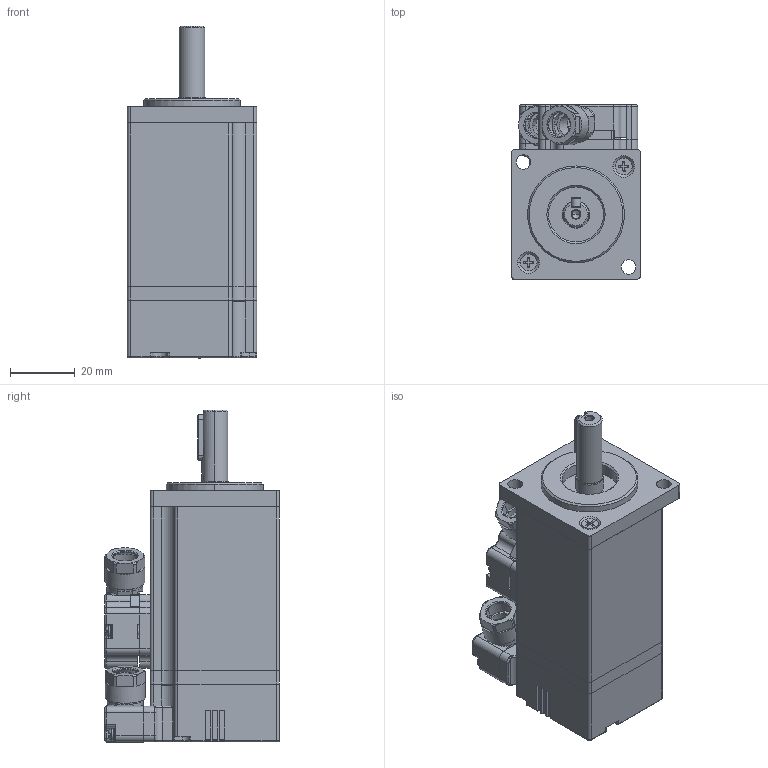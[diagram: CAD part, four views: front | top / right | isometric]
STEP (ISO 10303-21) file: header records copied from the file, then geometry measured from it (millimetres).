
FILE_DESCRIPTION((''),'2;1');
FILE_NAME('MS1H1-10B30CB-A330Z-S_ASM','2019-04-28T14:22:59',('w14852'),(''),'CREO PARAMETRIC BY PTC INC, 2017260','CREO PARAMETRIC BY PTC INC, 2017260','');
FILE_SCHEMA(('CONFIG_CONTROL_DESIGN'));
Length unit declared in the file: inch
Products named in the file (30): _1-SO-25700001_1_1_1; _1-SO-31110001_1_1_1; 31090501--MS1H1-100001_1_1_1; _1-SOLI00_1_1_1_1; _1-SO-128090001_1_1_1; 31090644--1-SOL000_1_1_1_1; _1-SO-288070001_1_1_1; _1-SO-323500001_1_1_1; _1-SO-357290001_1_1_1; _1-SO-362660001_1_1_1; _1-SO-391180001_1_1_1; _1-SO-523890001_1_1_1; _1-SO-528950001_1_1_1; _1-SO-556770001_1_1_1; _1-SO-621120001_1_1_1; PLAIN_PARALLEL_KEYS-1-SOLID1__1; 31090646--1-SOL000_1_1_1_1; 30_1_1_1_2_1; 60_1_1_1_1; _1-SO-821970001_1_1_1; _1-SO-890960001_1_1_1; MS1H1-10B30CB-A330Z_1_ASM_1_ASM_ASM; MS1H1-10B30CB-A330Z_ASM_1-32540_ASM; 1716920106_4_1_2_3_ASM_1_ASM; MS1H1-10B30CB-A330Z_ASM_1-32576_ASM; 21E8-005-1072-P4_2_1_1; 21E8-005-1073-P4_2_1_1; 22050011-LJ_4_1_1; MS1H1-10B30CB-A330Z-S_ASM_1_ASM; MS1H1-10B30CB-A330Z-S_ASM
Assembly tree (30 placements, depth 6):
  MS1H1-10B30CB-A330Z-S_ASM
    MS1H1-10B30CB-A330Z-S_ASM_1_ASM
      MS1H1-10B30CB-A330Z_ASM_1-32576_ASM
        MS1H1-10B30CB-A330Z_ASM_1-32540_ASM
          MS1H1-10B30CB-A330Z_1_ASM_1_ASM_ASM
            _1-SO-25700001_1_1_1
            _1-SO-31110001_1_1_1
            31090501--MS1H1-100001_1_1_1
            _1-SOLI00_1_1_1_1
            _1-SO-128090001_1_1_1
            31090644--1-SOL000_1_1_1_1
            _1-SO-288070001_1_1_1
            _1-SO-323500001_1_1_1
            _1-SO-357290001_1_1_1
            _1-SO-362660001_1_1_1
            _1-SO-391180001_1_1_1
            _1-SO-523890001_1_1_1
            _1-SO-528950001_1_1_1
            _1-SO-556770001_1_1_1
            _1-SO-621120001_1_1_1
            PLAIN_PARALLEL_KEYS-1-SOLID1__1
            31090646--1-SOL000_1_1_1_1
            30_1_1_1_2_1
            60_1_1_1_1
            _1-SO-821970001_1_1_1
            _1-SO-890960001_1_1_1
        1716920106_4_1_2_3_ASM_1_ASM
      21E8-005-1072-P4_2_1_1
      21E8-005-1073-P4_2_1_1
      22050011-LJ_4_1_1  x2
Bounding box: 40 x 54.1 x 102.7 mm (x, y, z)
Volume: 123194.6 mm3; surface area: 38942.5 mm2
Topology: 25 solids, 27 shells, 1660 faces, 4516 edges, 2967 vertices
Faces by surface type: plane 1027, cylinder 457, torus 64, cone 39, extrusion 39, bspline 28, sphere 6
Entity records: 55409 total; most frequent: CARTESIAN_POINT 12734, ORIENTED_EDGE 8884, DIRECTION 8715, EDGE_CURVE 4446, VECTOR 3021, LINE 2982, VERTEX_POINT 2927, AXIS2_PLACEMENT_3D 2847
